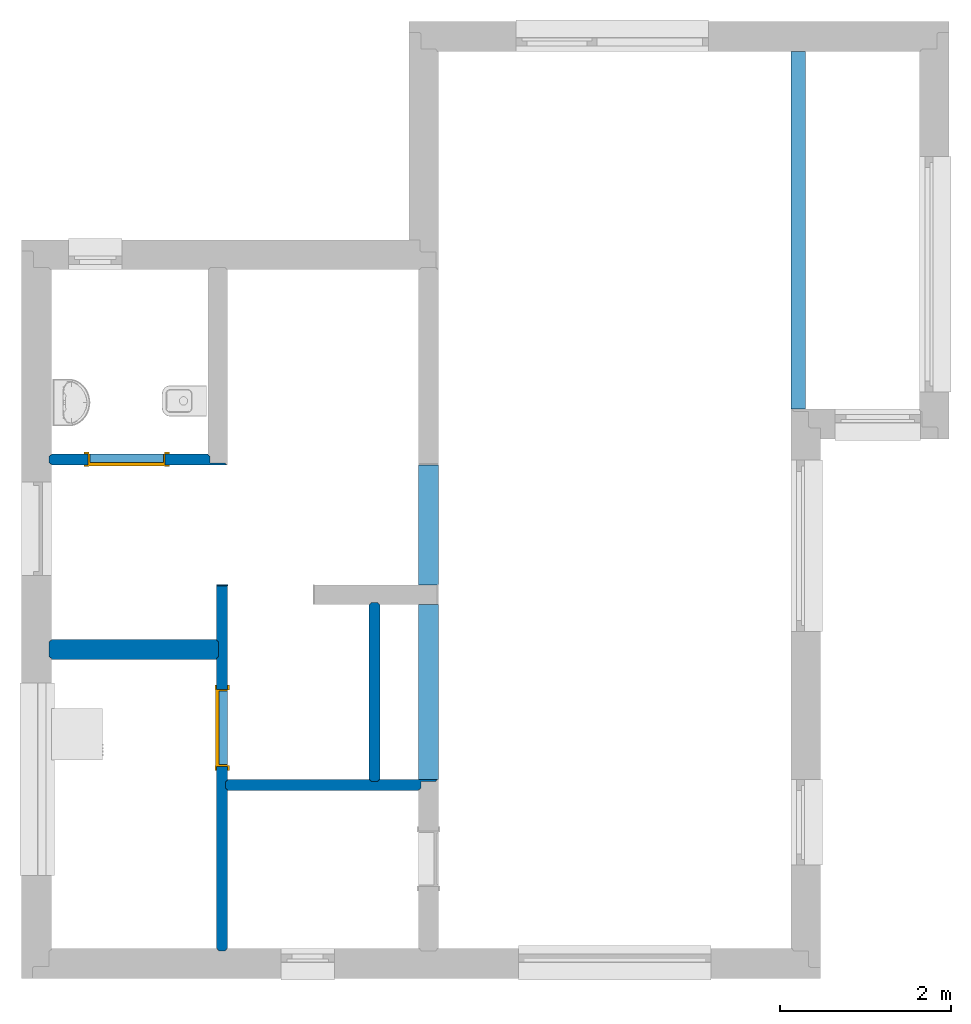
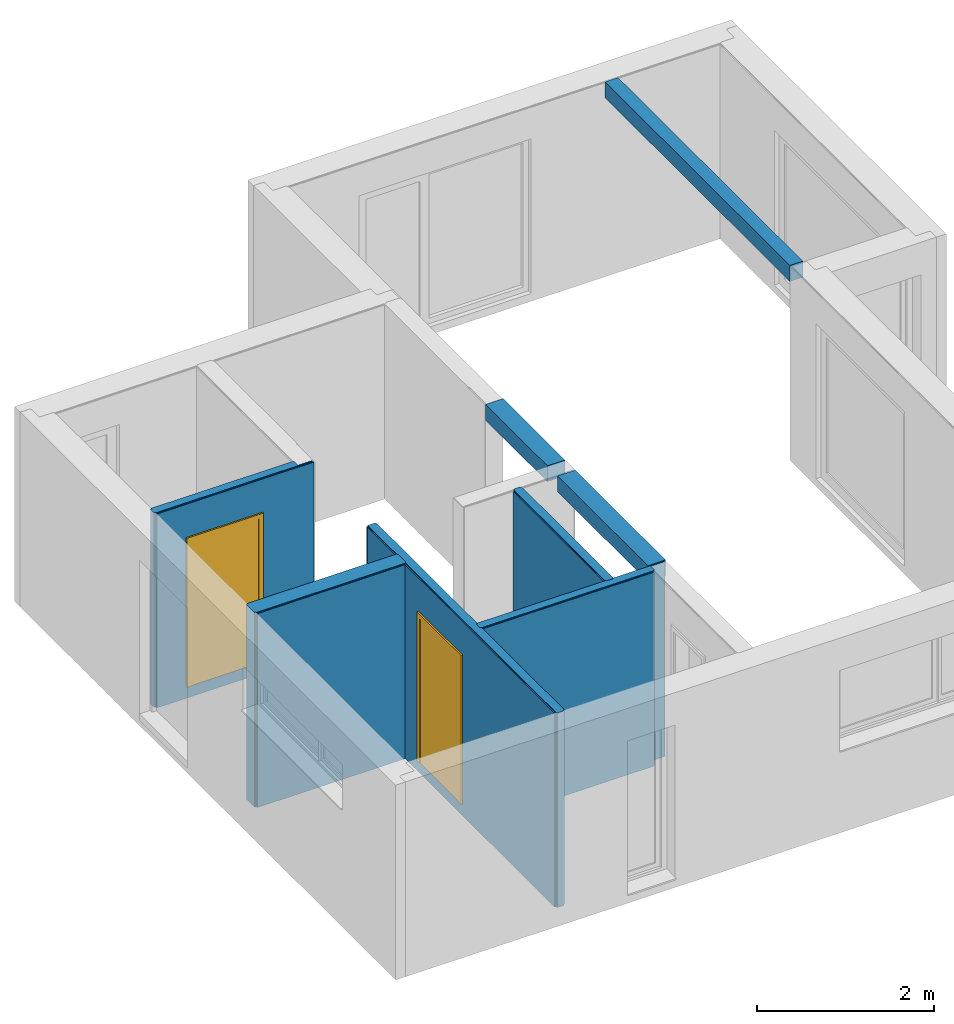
# One storey, part 1 of 6: 6 walls, 3 beams, 2 doors, 3 openings.
"""IFC2X3 building model written with IfcOpenShell, lengths in millimetres."""

import ifcopenshell
import ifcopenshell.guid

model = None  # the IFC model being written
_history = None  # IfcOwnerHistory: only IFC2X3 demands one
_inside = {}  # id of a spatial element -> (the spatial element, [elements in it])
_under = {}  # id of a project, library or spatial element -> (it, [spatial elements below it])
_declared = {}  # id of a project -> (the project, [libraries it declares])
_typed = {}  # id of a type object -> (the type object, [elements of that type])
_made_of = {}  # id of a material, layer set ... -> (it, [elements and type objects made of it])


def new_model(schema):
    """Start an empty IFC model of exactly this schema.

    Asked for "IFC4X3", IfcOpenShell would pick the latest addendum, in which some entities
    have other attributes; the version numbers below select the first issue.
    IFC2X3 requires an IfcOwnerHistory on every rooted entity: one is made here for all.
    """
    global model, _history
    if schema == "IFC4X3":
        model = ifcopenshell.file(schema_version=(4, 3, 0, 0))
    else:
        model = ifcopenshell.file(schema=schema)
    _inside.clear()
    _under.clear()
    _declared.clear()
    _typed.clear()
    _made_of.clear()
    _history = None
    if model.schema == "IFC2X3":
        org = make("IfcOrganization", Name="unknown")
        user = make(
            "IfcPersonAndOrganization",
            ThePerson=make("IfcPerson", FamilyName="unknown"),
            TheOrganization=org,
        )
        app = make(
            "IfcApplication",
            ApplicationDeveloper=org,
            Version="unknown",
            ApplicationFullName="unknown",
            ApplicationIdentifier="unknown",
        )
        _history = make(
            "IfcOwnerHistory",
            OwningUser=user,
            OwningApplication=app,
            ChangeAction="ADDED",
            CreationDate=0,
        )
    return model


def make(cls, **values):
    """One entity of the class cls with the attributes given. An attribute that is None is left unset."""
    return model.create_entity(
        cls, **{name: value for name, value in values.items() if value is not None}
    )


def entity(cls, *values):
    """Any entity or typed value of the class cls, its attributes in the order of the schema. None: left unset."""
    e = model.create_entity(cls)
    for i, value in enumerate(values):
        if value is not None:
            e[i] = value
    return e


def rooted(cls, **values):
    """An entity with a GlobalId (a new one), such as an element, a storey or a relation."""
    return make(cls, GlobalId=ifcopenshell.guid.new(), OwnerHistory=_history, **values)


def si_unit(unit_type, name, prefix=None):
    """IfcSIUnit, for example si_unit("LENGTHUNIT", "METRE", prefix="MILLI")."""
    return make("IfcSIUnit", UnitType=unit_type, Prefix=prefix, Name=name)


def converted_unit(unit_type, name, factor, base, dimensions=None, offset=None):
    """IfcConversionBasedUnit, such as the inch: factor (a typed value) times the base unit."""
    return make(
        "IfcConversionBasedUnit"
        if offset is None
        else "IfcConversionBasedUnitWithOffset",
        ConversionOffset=offset,
        Dimensions=None
        if dimensions is None
        else entity("IfcDimensionalExponents", *dimensions),
        UnitType=unit_type,
        Name=name,
        ConversionFactor=make(
            "IfcMeasureWithUnit", ValueComponent=factor, UnitComponent=base
        ),
    )


def derived_unit(unit_type, elements):
    """IfcDerivedUnit: a product of units, each with its exponent."""
    return make(
        "IfcDerivedUnit",
        Elements=[
            make("IfcDerivedUnitElement", Unit=unit, Exponent=power)
            for unit, power in elements
        ],
        UnitType=unit_type,
    )


def money_unit(currency):
    """IfcMonetaryUnit."""
    return make("IfcMonetaryUnit", Currency=currency)


def assignment(units):
    """IfcUnitAssignment: the units of a project."""
    return None if units is None else make("IfcUnitAssignment", Units=units)


def point(xyz):
    """IfcCartesianPoint."""
    return None if xyz is None else make("IfcCartesianPoint", Coordinates=xyz)


def direction(xyz):
    """IfcDirection."""
    return None if xyz is None else make("IfcDirection", DirectionRatios=xyz)


def frame(location, z_axis=None, x_axis=None):
    """IfcAxis2Placement3D, a coordinate frame: its origin and axes. An axis left out is left unset."""
    return make(
        "IfcAxis2Placement3D",
        Location=point(location),
        Axis=direction(z_axis),
        RefDirection=direction(x_axis),
    )


def origin_with_axes():
    """The frame at (0, 0, 0) with the z axis (0, 0, 1) and the x axis (1, 0, 0) written out."""
    return frame((0.0, 0.0, 0.0), z_axis=(0.0, 0.0, 1.0), x_axis=(1.0, 0.0, 0.0))


def place(relative_to, where):
    """IfcLocalPlacement: puts the frame where relative to a parent placement (None: the world)."""
    return make(
        "IfcLocalPlacement", PlacementRelTo=relative_to, RelativePlacement=where
    )


def context(
    kind, dimensions, precision=None, world=None, true_north=None, identifier=None
):
    """IfcGeometricRepresentationContext, for example the 3D "Model" context."""
    return make(
        "IfcGeometricRepresentationContext",
        ContextIdentifier=identifier,
        ContextType=kind,
        CoordinateSpaceDimension=dimensions,
        Precision=precision,
        WorldCoordinateSystem=world,
        TrueNorth=true_north,
    )


def subcontext(parent, identifier, kind, view, scale=None):
    """IfcGeometricRepresentationSubContext, for example "Body" below "Model"."""
    return make(
        "IfcGeometricRepresentationSubContext",
        ContextIdentifier=identifier,
        ContextType=kind,
        ParentContext=parent,
        TargetScale=scale,
        TargetView=view,
    )


def project(units=None, contexts=None):
    """IfcProject with its units and contexts."""
    return rooted(
        "IfcProject",
        Name="project",
        RepresentationContexts=contexts,
        UnitsInContext=assignment(units),
    )


def spatial(cls, under=None, at=None, **own):
    """A site, building, storey or space (cls), placed at a placement, below another one or the project."""
    s = rooted(cls, ObjectPlacement=at, **own)
    if under is not None:
        _under.setdefault(under.id(), (under, []))[1].append(s)
    return s


def faces_of(points, faces, orient=None, outer=None):
    """IfcFace entities. A face is a list of loops; a loop is a list of indices into points, from 0.

    orient and outer hold one flag for each loop. By default every Orientation is true, the
    first loop of a face is its IfcFaceOuterBound and the others are IfcFaceBound.
    """
    made = []
    for i, loops in enumerate(faces):
        bounds = []
        for j, loop in enumerate(loops):
            is_outer = j == 0 if outer is None else outer[i][j]
            bounds.append(
                make(
                    "IfcFaceOuterBound" if is_outer else "IfcFaceBound",
                    Bound=make("IfcPolyLoop", Polygon=[points[k] for k in loop]),
                    Orientation=True if orient is None else orient[i][j],
                )
            )
        made.append(make("IfcFace", Bounds=bounds))
    return made


def faceted_brep(points, faces, orient=None, outer=None, voids=None):
    """IfcFacetedBrep: a solid bounded by flat faces; with voids (closed shells), ...WithVoids."""
    shared = [point(p) for p in points]
    hull = make("IfcClosedShell", CfsFaces=faces_of(shared, faces, orient, outer))
    if voids is None:
        return make("IfcFacetedBrep", Outer=hull)
    return make(
        "IfcFacetedBrepWithVoids",
        Outer=hull,
        Voids=[
            make(cls, CfsFaces=faces_of(shared, fs, o, b)) for cls, fs, o, b in voids
        ],
    )


def shape(context_of_items, identifier, shape_type, items):
    """IfcShapeRepresentation: the items that make up one representation, for example the "Body"."""
    return make(
        "IfcShapeRepresentation",
        ContextOfItems=context_of_items,
        RepresentationIdentifier=identifier,
        RepresentationType=shape_type,
        Items=items,
    )


def source(mapping_origin, context_of_items, identifier, shape_type, items):
    """IfcRepresentationMap: a shape defined once, which mapped items show again and again."""
    return make(
        "IfcRepresentationMap",
        MappingOrigin=mapping_origin,
        MappedRepresentation=shape(context_of_items, identifier, shape_type, items),
    )


def transform(
    local_origin,
    x_axis=None,
    y_axis=None,
    z_axis=None,
    scale=None,
    scale2=None,
    scale3=None,
    uniform=True,
):
    """IfcCartesianTransformationOperator3D, or its non-uniform kind. x_axis, y_axis, z_axis: its Axis1, 2, 3."""
    if uniform:
        return make(
            "IfcCartesianTransformationOperator3D",
            Axis1=direction(x_axis),
            Axis2=direction(y_axis),
            LocalOrigin=point(local_origin),
            Scale=scale,
            Axis3=direction(z_axis),
        )
    return make(
        "IfcCartesianTransformationOperator3DnonUniform",
        Axis1=direction(x_axis),
        Axis2=direction(y_axis),
        LocalOrigin=point(local_origin),
        Scale=scale,
        Axis3=direction(z_axis),
        Scale2=scale2,
        Scale3=scale3,
    )


def mapped(mapping_source, mapping_target):
    """IfcMappedItem: shows the shape of a source again, moved by a transform."""
    return make(
        "IfcMappedItem", MappingSource=mapping_source, MappingTarget=mapping_target
    )


def material(Name=None, Category=None):
    """IfcMaterial."""
    return make("IfcMaterial", Name=Name, Category=Category)


def material_list(materials):
    """IfcMaterialList."""
    return make("IfcMaterialList", Materials=materials)


def made_of(thing, what):
    """Note that an element or type object is made of a material, layer set ...; save() writes the relation."""
    if what is not None:
        _made_of.setdefault(what.id(), (what, []))[1].append(thing)
    return thing


def type_object(cls, material=None, **own):
    """A type object (cls), such as IfcWallType, which elements share."""
    return made_of(rooted(cls, **own), material)


def element(
    cls,
    number,
    at=None,
    inside=None,
    cuts=None,
    type_object=None,
    material=None,
    context=None,
    identifier="Body",
    shape_type=None,
    held_by="IfcProductDefinitionShape",
    body=None,
    shapes=None,
    **own,
):
    """One element of the class cls, such as IfcWall. Its Tag is "e" and its number.

    at: its placement. inside: the storey or other place that contains it. cuts: it is an
    opening in that element (IfcRelVoidsElement). A single representation is given by context,
    identifier, shape_type and body (its items); several are given by shapes. held_by: the class
    of the entity that holds the representations. save() writes the other relations.
    """
    e = rooted(cls, Tag="e%d" % number, ObjectPlacement=at, **own)
    if body is not None:
        shapes = [shape(context, identifier, shape_type, body)]
    if shapes is not None:
        e.Representation = make(held_by, Representations=shapes)
    if inside is not None:
        _inside.setdefault(inside.id(), (inside, []))[1].append(e)
    if cuts is not None:
        rooted(
            "IfcRelVoidsElement", RelatingBuildingElement=cuts, RelatedOpeningElement=e
        )
    if type_object is not None:
        _typed.setdefault(type_object.id(), (type_object, []))[1].append(e)
    return made_of(e, material)


def fill(opening, filler):
    """IfcRelFillsElement: the door or window that sits in an opening."""
    return rooted(
        "IfcRelFillsElement",
        RelatingOpeningElement=opening,
        RelatedBuildingElement=filler,
    )


def aggregate(whole, parts):
    """IfcRelAggregates: a whole, such as a stair, and the parts it consists of."""
    return rooted("IfcRelAggregates", RelatingObject=whole, RelatedObjects=parts)


def save(model, path):
    """Write the relations noted so far, then the file.

    IfcRelAggregates (storeys below a building ...), IfcRelContainedInSpatialStructure (elements
    in a storey), IfcRelDefinesByType, IfcRelAssociatesMaterial and IfcRelDeclares: one each for
    every whole, place, type object, material and project.
    """
    for whole, parts in _under.values():
        aggregate(whole, parts)
    for where, things in _inside.values():
        rooted(
            "IfcRelContainedInSpatialStructure",
            RelatedElements=things,
            RelatingStructure=where,
        )
    for kind, things in _typed.values():
        rooted("IfcRelDefinesByType", RelatedObjects=things, RelatingType=kind)
    for what, things in _made_of.values():
        rooted("IfcRelAssociatesMaterial", RelatedObjects=things, RelatingMaterial=what)
    for by, libraries in _declared.values():
        rooted("IfcRelDeclares", RelatingContext=by, RelatedDefinitions=libraries)
    model.write(path)


model = new_model("IFC2X3")

# Units and contexts
model_context = context("Model", 3, precision=0.01, world=origin_with_axes(), true_north=direction((0.0, 1.0)))
body_context = subcontext(model_context, "Body", "Model", "MODEL_VIEW")
ifc_project = project(units=[si_unit("LENGTHUNIT", "METRE", prefix="MILLI"), si_unit("AREAUNIT", "SQUARE_METRE"), si_unit("VOLUMEUNIT", "CUBIC_METRE"), converted_unit("PLANEANGLEUNIT", "DEGREE", entity("IfcPlaneAngleMeasure", 0.0174532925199), si_unit("PLANEANGLEUNIT", "RADIAN"), dimensions=[0, 0, 0, 0, 0, 0, 0]), si_unit("SOLIDANGLEUNIT", "STERADIAN"), money_unit("USD"), converted_unit("TIMEUNIT", "Year", entity("IfcTimeMeasure", 31556926.0), si_unit("TIMEUNIT", "SECOND"), dimensions=[0, 0, 1, 0, 0, 0, 0]), si_unit("MASSUNIT", "GRAM", prefix="KILO"), si_unit("THERMODYNAMICTEMPERATUREUNIT", "DEGREE_CELSIUS"), si_unit("LUMINOUSINTENSITYUNIT", "LUMEN"), si_unit("ENERGYUNIT", "JOULE", prefix="MEGA"), derived_unit("THERMALCONDUCTANCEUNIT", [(si_unit("POWERUNIT", "WATT"), 1), (si_unit("LENGTHUNIT", "METRE"), -1), (si_unit("THERMODYNAMICTEMPERATUREUNIT", "KELVIN"), -1)]), derived_unit("SPECIFICHEATCAPACITYUNIT", [(si_unit("ENERGYUNIT", "JOULE"), 1), (si_unit("MASSUNIT", "GRAM", prefix="KILO"), -1), (si_unit("THERMODYNAMICTEMPERATUREUNIT", "KELVIN"), -1)]), derived_unit("MASSDENSITYUNIT", [(si_unit("MASSUNIT", "GRAM", prefix="KILO"), 1), (si_unit("VOLUMEUNIT", "CUBIC_METRE"), -1)])], contexts=[model_context])

# Site, building, storey
site_placement = place(None, origin_with_axes())
site = spatial("IfcSite", under=ifc_project, at=site_placement, Name="Lokalizacja", CompositionType="ELEMENT")
building_placement = place(site_placement, origin_with_axes())
building = spatial("IfcBuilding", under=site, at=building_placement, Name="Budynek", CompositionType="ELEMENT")
storey_placement = place(building_placement, origin_with_axes())
storey = spatial("IfcBuildingStorey", under=building, at=storey_placement, Name="EG", CompositionType="ELEMENT", Elevation=0.0)

# Beams
ifc_material_1 = material(Name="_DANWOOD_EL_KONSTR")
beam_type_1 = type_object("IfcBeamType", Name="_DANWOOD_EL_KONSTR 230 x 220", PredefinedType="NOTDEFINED")
beam_1_placement = place(storey_placement, frame((4405.0, -3910.13695991, 2530.0), z_axis=(0.0, 0.0, 1.0), x_axis=(-1.0, 0.0, 0.0)))
element("IfcBeam", 1, at=beam_1_placement, inside=storey, type_object=beam_type_1, material=ifc_material_1, Name="UNTERZUG", context=body_context, shape_type="Brep", body=[
    faceted_brep([(115.0, 0.0, -220.0), (-115.0, 0.0, -220.0), (-115.0, 2044.86290677, -220.0), (115.0, 2044.86290677, -220.0), (115.0, 0.0, 0.0), (-115.0, 0.0, 0.0), (-115.0, 2044.86290677, 0.0), (115.0, 2044.86290677, 0.0)], [[[0, 1, 2, 3]], [[4, 5, 1, 0]], [[1, 5, 6, 2]], [[7, 3, 2, 6]], [[4, 0, 3, 7]], [[5, 4, 7, 6]]]),
])
beam_2_placement = place(storey_placement, frame((4405.0, -2280.14170672, 2530.0), z_axis=(0.0, 0.0, 1.0), x_axis=(-1.0, 0.0, 0.0)))
element("IfcBeam", 2, at=beam_2_placement, inside=storey, type_object=beam_type_1, material=ifc_material_1, Name="UNTERZUG", context=body_context, shape_type="Brep", body=[
    faceted_brep([(115.0, 0.0, -220.0), (-115.0, 0.0, -220.0), (-115.0, 1399.99525319, -220.0), (115.0, 1399.99525319, -220.0), (115.0, 0.0, 0.0), (-115.0, 0.0, 0.0), (-115.0, 1399.99525319, 0.0), (115.0, 1399.99525319, 0.0)], [[[0, 1, 2, 3]], [[4, 5, 1, 0]], [[1, 5, 6, 2]], [[7, 3, 2, 6]], [[4, 0, 3, 7]], [[5, 4, 7, 6]]]),
])
beam_type_2 = type_object("IfcBeamType", Name="_DANWOOD_EL_KONSTR 170 x 220", PredefinedType="NOTDEFINED")
beam_3_placement = place(storey_placement, frame((8725.0, 2550.0, 2530.0), z_axis=(0.0, 0.0, 1.0), x_axis=(-1.0, 0.0, 0.0)))
element("IfcBeam", 3, at=beam_3_placement, inside=storey, type_object=beam_type_2, material=ifc_material_1, Name="UNTERZUG", context=body_context, shape_type="Brep", body=[
    faceted_brep([(85.0, 0.0, -220.0), (-85.0, 0.0, -220.0), (-85.0, 4180.0, -220.0), (85.0, 4180.0, -220.0), (85.0, 0.0, 0.0), (-85.0, 0.0, 0.0), (-85.0, 4180.0, 0.0), (85.0, 4180.0, 0.0)], [[[0, 1, 2, 3]], [[4, 5, 1, 0]], [[1, 5, 6, 2]], [[7, 3, 2, 6]], [[4, 0, 3, 7]], [[5, 4, 7, 6]]]),
])

# Walls, openings, door
ifc_material_2 = material(Name="Płyta GK")
ifc_material_3 = material(Name="Płyta OSB")
ifc_material_4 = material(Name="Drewno konstrukcyjne")
ifc_material_list = material_list([ifc_material_2, ifc_material_3, ifc_material_4, ifc_material_3, ifc_material_2])
wall_type_1 = type_object("IfcWallType", Name="022- _dan_SD_130 130", PredefinedType="NOTDEFINED")
wall_1_placement = place(storey_placement, frame((2060.0, -3680.13695991, -160.0), z_axis=(0.0, 0.0, 1.0), x_axis=(0.0, -1.0, 0.0)))
wall_1 = element("IfcWall", 4, at=wall_1_placement, inside=storey, type_object=wall_type_1, material=ifc_material_list, Name="SW1", context=body_context, shape_type="Brep", body=[
    faceted_brep([(2391.86290677, -13.0, 2678.0), (2391.86290677, 0.0, 2678.0), (2391.86290677, 0.0, 0.0), (2391.86290677, -13.0, 0.0), (4249.86294496, 0.0, 2678.0), (4249.86294496, -13.0, 2678.0), (4249.86294496, 0.0, 0.0), (4249.86294496, -13.0, 0.0)], [[[0, 1, 2, 3]], [[4, 1, 0, 5]], [[1, 4, 6, 2]], [[6, 7, 3, 2]], [[5, 0, 3, 7]], [[4, 5, 7, 6]]]),
    faceted_brep([(0.0, -13.0, 2678.0), (0.0, 0.0, 2678.0), (0.0, 0.0, 0.0), (0.0, -13.0, 0.0), (2287.86290677, 0.0, 2678.0), (2287.86290677, -13.0, 2678.0), (2287.86290677, 0.0, 0.0), (2287.86290677, -13.0, 0.0)], [[[0, 1, 2, 3]], [[4, 1, 0, 5]], [[1, 4, 6, 2]], [[6, 7, 3, 2]], [[5, 0, 3, 7]], [[4, 5, 7, 6]]]),
    faceted_brep([(4262.86294496, -25.0, 0.0), (2379.86290677, -25.0, 0.0), (2379.86290677, -13.0, 0.0), (4262.86294496, -13.0, 0.0), (4262.86294496, -25.0, 2690.0), (2379.86290677, -25.0, 2690.0), (2379.86290677, -13.0, 2690.0), (4262.86294496, -13.0, 2690.0)], [[[0, 1, 2, 3]], [[4, 5, 1, 0]], [[2, 1, 5, 6]], [[3, 2, 6, 7]], [[3, 7, 4, 0]], [[7, 6, 5, 4]]]),
    faceted_brep([(2299.86290677, -25.0, 0.0), (0.0, -25.0, 0.0), (0.0, -13.0, 0.0), (2299.86290677, -13.0, 0.0), (2299.86290677, -25.0, 2690.0), (0.0, -25.0, 2690.0), (0.0, -13.0, 2690.0), (2299.86290677, -13.0, 2690.0)], [[[0, 1, 2, 3]], [[4, 5, 1, 0]], [[2, 1, 5, 6]], [[3, 2, 6, 7]], [[3, 7, 4, 0]], [[7, 6, 5, 4]]]),
    faceted_brep([(4274.86294496, -105.0, 0.0), (0.0, -105.0, 0.0), (0.0, -25.0, 0.0), (4274.86294496, -25.0, 0.0), (4274.86294496, -105.0, 2690.0), (0.0, -105.0, 2690.0), (0.0, -25.0, 2690.0), (4274.86294496, -25.0, 2690.0)], [[[0, 1, 2, 3]], [[4, 5, 1, 0]], [[2, 1, 5, 6]], [[3, 2, 6, 7]], [[3, 7, 4, 0]], [[7, 6, 5, 4]]]),
    faceted_brep([(4262.86294496, -117.0, 0.0), (845.0, -117.0, 0.0), (845.0, -105.0, 0.0), (4262.86294496, -105.0, 0.0), (4262.86294496, -117.0, 2690.0), (845.0, -117.0, 2690.0), (845.0, -105.0, 2690.0), (4262.86294496, -105.0, 2690.0)], [[[0, 1, 2, 3]], [[4, 5, 1, 0]], [[2, 1, 5, 6]], [[3, 2, 6, 7]], [[3, 7, 4, 0]], [[7, 6, 5, 4]]]),
    faceted_brep([(665.0, -117.0, 0.0), (0.0, -117.0, 0.0), (0.0, -105.0, 0.0), (665.0, -105.0, 0.0), (665.0, -117.0, 2690.0), (0.0, -117.0, 2690.0), (0.0, -105.0, 2690.0), (665.0, -105.0, 2690.0)], [[[0, 1, 2, 3]], [[4, 5, 1, 0]], [[2, 1, 5, 6]], [[3, 2, 6, 7]], [[3, 7, 4, 0]], [[7, 6, 5, 4]]]),
    faceted_brep([(857.0, -130.0, 2678.0), (857.0, -117.0, 2678.0), (857.0, -117.0, 0.0), (857.0, -130.0, 0.0), (4249.86294496, -117.0, 2678.0), (4249.86294496, -130.0, 2678.0), (4249.86294496, -117.0, 0.0), (4249.86294496, -130.0, 0.0)], [[[0, 1, 2, 3]], [[4, 1, 0, 5]], [[1, 4, 6, 2]], [[6, 7, 3, 2]], [[5, 0, 3, 7]], [[4, 5, 7, 6]]]),
    faceted_brep([(0.0, -130.0, 2678.0), (0.0, -117.0, 2678.0), (0.0, -117.0, 0.0), (0.0, -130.0, 0.0), (653.0, -117.0, 2678.0), (653.0, -130.0, 2678.0), (653.0, -117.0, 0.0), (653.0, -130.0, 0.0)], [[[0, 1, 2, 3]], [[4, 1, 0, 5]], [[1, 4, 6, 2]], [[6, 7, 3, 2]], [[5, 0, 3, 7]], [[4, 5, 7, 6]]]),
])
opening_1_placement = place(wall_1_placement, origin_with_axes())
opening_1 = element("IfcOpeningElement", 5, at=opening_1_placement, cuts=wall_1, Name="ZS5", context=body_context, shape_type="Brep", body=[
    faceted_brep([(13.0, -117.0, 0.0), (0.0, -117.0, 0.0), (0.0, -117.0, 2678.0), (13.0, -117.0, 2678.0), (13.0, -130.0, 0.0), (0.0, -130.0, 0.0), (0.0, -130.0, 2678.0), (13.0, -130.0, 2678.0)], [[[0, 1, 2, 3]], [[0, 4, 5, 1]], [[1, 5, 6, 2]], [[3, 2, 6, 7]], [[4, 0, 3, 7]], [[5, 4, 7, 6]]]),
    faceted_brep([(13.0, 0.0, 0.0), (0.0, 0.0, 0.0), (0.0, 0.0, 2678.0), (13.0, 0.0, 2678.0), (13.0, -13.0, 0.0), (0.0, -13.0, 0.0), (0.0, -13.0, 2678.0), (13.0, -13.0, 2678.0)], [[[0, 1, 2, 3]], [[0, 4, 5, 1]], [[1, 5, 6, 2]], [[3, 2, 6, 7]], [[4, 0, 3, 7]], [[5, 4, 7, 6]]]),
    faceted_brep([(13.0, -13.0, 0.0), (0.0, -13.0, 0.0), (0.0, -13.0, 2678.0), (13.0, -13.0, 2678.0), (13.0, -117.0, 0.0), (0.0, -117.0, 0.0), (0.0, -117.0, 2678.0), (13.0, -117.0, 2678.0)], [[[0, 1, 2, 3]], [[0, 4, 5, 1]], [[1, 5, 6, 2]], [[3, 2, 6, 7]], [[4, 0, 3, 7]], [[5, 4, 7, 6]]]),
])
opening_2_placement = place(wall_1_placement, frame((1669.86289202, 0.0, 160.0), z_axis=(0.0, 0.0, 1.0), x_axis=(1.0, 0.0, 0.0)))
opening_2 = element("IfcOpeningElement", 6, at=opening_2_placement, cuts=wall_1, Name="D4", context=body_context, shape_type="Brep", body=[
    faceted_brep([(-450.0, -130.0, 0.0), (-450.0, -130.0, 2010.0), (-450.0, 260.0, 2010.0), (-450.0, 260.0, 0.0), (450.0, -130.0, 0.0), (450.0, -130.0, 2010.0), (450.0, 260.0, 2010.0), (450.0, 260.0, 0.0)], [[[0, 1, 2, 3]], [[0, 4, 5, 1]], [[1, 5, 6, 2]], [[3, 2, 6, 7]], [[4, 0, 3, 7]], [[5, 4, 7, 6]]]),
    faceted_brep([(-500.0, -260.0, 0.0), (-500.0, -260.0, 2060.0), (-500.0, -130.0, 2060.0), (-500.0, -130.0, 0.0), (500.0, -260.0, 0.0), (500.0, -260.0, 2060.0), (500.0, -130.0, 2060.0), (500.0, -130.0, 0.0)], [[[0, 1, 2, 3]], [[0, 4, 5, 1]], [[1, 5, 6, 2]], [[3, 2, 6, 7]], [[4, 0, 3, 7]], [[5, 4, 7, 6]]]),
    faceted_brep([(-500.0, 130.0, 2060.0), (-500.0, 130.0, 0.0), (-500.0, 0.0, 0.0), (-500.0, 0.0, 2060.0), (500.0, 130.0, 2060.0), (500.0, 130.0, 0.0), (500.0, 0.0, 0.0), (500.0, 0.0, 2060.0)], [[[0, 1, 2, 3]], [[0, 4, 5, 1]], [[1, 5, 6, 2]], [[3, 2, 6, 7]], [[4, 0, 3, 7]], [[5, 4, 7, 6]]]),
])
wall_type_2 = type_object("IfcWallType", Name="Zakończenie zamknięte 24", PredefinedType="NOTDEFINED")
wall_2_placement = place(opening_1_placement, frame((6.5, 0.0, 0.0), z_axis=(0.0, 0.0, 1.0), x_axis=(-1.0, 0.0, 0.0)))
wall_2 = element("IfcWall", 7, at=wall_2_placement, inside=storey, type_object=wall_type_2, material=ifc_material_2, Name="ZS5", context=body_context, shape_type="Brep", body=[
    faceted_brep([(6.5, 130.0, 0.0), (-6.5, 130.0, 0.0), (-6.5, 130.0, 2678.0), (6.5, 130.0, 2678.0), (6.5, 117.0, 0.0), (-6.5, 117.0, 0.0), (-6.5, 117.0, 2678.0), (6.5, 117.0, 2678.0)], [[[0, 1, 2, 3]], [[4, 5, 1, 0]], [[5, 6, 2, 1]], [[6, 7, 3, 2]], [[7, 4, 0, 3]], [[4, 7, 6, 5]]]),
    faceted_brep([(6.5, 13.0, 0.0), (-6.5, 13.0, 0.0), (-6.5, 13.0, 2678.0), (6.5, 13.0, 2678.0), (6.5, 0.0, 0.0), (-6.5, 0.0, 0.0), (-6.5, 0.0, 2678.0), (6.5, 0.0, 2678.0)], [[[0, 1, 2, 3]], [[4, 5, 1, 0]], [[5, 6, 2, 1]], [[6, 7, 3, 2]], [[7, 4, 0, 3]], [[4, 7, 6, 5]]]),
    faceted_brep([(6.5, 117.0, 0.0), (-6.5, 117.0, 0.0), (-6.5, 117.0, 2678.0), (6.5, 117.0, 2678.0), (6.5, 13.0, 0.0), (-6.5, 13.0, 0.0), (-6.5, 13.0, 2678.0), (6.5, 13.0, 2678.0)], [[[0, 1, 2, 3]], [[4, 5, 1, 0]], [[5, 6, 2, 1]], [[6, 7, 3, 2]], [[7, 4, 0, 3]], [[4, 7, 6, 5]]]),
])
fill(opening_1, wall_2)
door_style = type_object("IfcDoorStyle", Name="Drzwi 24", ConstructionType="NOTDEFINED", OperationType="SINGLE_SWING_RIGHT", ParameterTakesPrecedence=False, Sizeable=False)
shared_shape = source(origin_with_axes(), body_context, "Body", "Brep", [
    faceted_brep([(-500.0, 10.0, 0.0), (-440.0, 10.0, 0.0), (-440.0, -10.0, 0.0), (-500.0, -10.0, 0.0), (-500.0, 10.0, 2060.0), (-440.0, 10.0, 2000.0), (-440.0, -10.0, 2000.0), (-500.0, -10.0, 2060.0)], [[[0, 1, 2, 3]], [[0, 4, 5, 1]], [[1, 5, 6, 2]], [[3, 2, 6, 7]], [[4, 0, 3, 7]], [[5, 4, 7, 6]]]),
    faceted_brep([(500.0, 10.0, 2060.0), (440.0, 10.0, 2000.0), (440.0, -10.0, 2000.0), (500.0, -10.0, 2060.0), (500.0, 10.0, 0.0), (440.0, 10.0, 0.0), (440.0, -10.0, 0.0), (500.0, -10.0, 0.0)], [[[0, 1, 2, 3]], [[0, 4, 5, 1]], [[1, 5, 6, 2]], [[3, 2, 6, 7]], [[4, 0, 3, 7]], [[5, 4, 7, 6]]]),
    faceted_brep([(-500.0, 10.0, 2060.0), (-440.0, 10.0, 2000.0), (-440.0, -10.0, 2000.0), (-500.0, -10.0, 2060.0), (500.0, 10.0, 2060.0), (440.0, 10.0, 2000.0), (440.0, -10.0, 2000.0), (500.0, -10.0, 2060.0)], [[[0, 1, 2, 3]], [[0, 4, 5, 1]], [[1, 5, 6, 2]], [[3, 2, 6, 7]], [[4, 0, 3, 7]], [[5, 4, 7, 6]]]),
    faceted_brep([(-500.0, -160.0, 0.0), (-500.0, -140.0, 0.0), (-440.0, -140.0, 0.0), (-440.0, -160.0, 0.0), (-500.0, -160.0, 2060.0), (-500.0, -140.0, 2060.0), (-440.0, -140.0, 2000.0), (-440.0, -160.0, 2000.0)], [[[0, 1, 2, 3]], [[4, 5, 1, 0]], [[1, 5, 6, 2]], [[3, 2, 6, 7]], [[0, 3, 7, 4]], [[7, 6, 5, 4]]]),
    faceted_brep([(500.0, -160.0, 2060.0), (500.0, -140.0, 2060.0), (440.0, -140.0, 2000.0), (440.0, -160.0, 2000.0), (500.0, -160.0, 0.0), (500.0, -140.0, 0.0), (440.0, -140.0, 0.0), (440.0, -160.0, 0.0)], [[[0, 1, 2, 3]], [[4, 5, 1, 0]], [[1, 5, 6, 2]], [[3, 2, 6, 7]], [[0, 3, 7, 4]], [[7, 6, 5, 4]]]),
    faceted_brep([(-500.0, -160.0, 2060.0), (-500.0, -140.0, 2060.0), (-440.0, -140.0, 2000.0), (-440.0, -160.0, 2000.0), (500.0, -160.0, 2060.0), (500.0, -140.0, 2060.0), (440.0, -140.0, 2000.0), (440.0, -160.0, 2000.0)], [[[0, 1, 2, 3]], [[4, 5, 1, 0]], [[1, 5, 6, 2]], [[3, 2, 6, 7]], [[0, 3, 7, 4]], [[7, 6, 5, 4]]]),
    faceted_brep([(-450.0, 0.0, 0.0), (-430.0, 0.0, 0.0), (-430.0, -140.0, 0.0), (-450.0, -140.0, 0.0), (-450.0, 0.0, 1990.0), (-430.0, 0.0, 1990.0), (-430.0, -140.0, 1990.0), (-450.0, -140.0, 1990.0)], [[[0, 1, 2, 3]], [[0, 4, 5, 1]], [[1, 5, 6, 2]], [[3, 2, 6, 7]], [[4, 0, 3, 7]], [[5, 4, 7, 6]]]),
    faceted_brep([(450.0, 0.0, 0.0), (450.0, 0.0, 1990.0), (450.0, -140.0, 1990.0), (450.0, -140.0, 0.0), (430.0, 0.0, 0.0), (430.0, 0.0, 1990.0), (430.0, -140.0, 1990.0), (430.0, -140.0, 0.0)], [[[0, 1, 2, 3]], [[0, 4, 5, 1]], [[1, 5, 6, 2]], [[3, 2, 6, 7]], [[4, 0, 3, 7]], [[5, 4, 7, 6]]]),
    faceted_brep([(-450.0, 0.0, 2010.0), (-450.0, 0.0, 1990.0), (-450.0, -140.0, 1990.0), (-450.0, -140.0, 2010.0), (450.0, 0.0, 2010.0), (450.0, 0.0, 1990.0), (430.0, 0.0, 1990.0), (-430.0, 0.0, 1990.0), (-430.0, -140.0, 1990.0), (430.0, -140.0, 1990.0), (450.0, -140.0, 1990.0), (450.0, -140.0, 2010.0)], [[[0, 1, 2, 3]], [[0, 4, 5, 6, 7, 1]], [[1, 7, 8, 2]], [[3, 2, 8, 9, 10, 11]], [[4, 0, 3, 11]], [[5, 4, 11, 10]], [[6, 5, 10, 9]], [[7, 6, 9, 8]]]),
    faceted_brep([(430.0, 0.0, 0.0), (430.0, -40.0, 0.0), (-430.0, -40.0, 0.0), (-430.0, 0.0, 0.0), (430.0, 0.0, 1990.0), (430.0, -40.0, 1990.0), (-430.0, -40.0, 1990.0), (-430.0, 0.0, 1990.0)], [[[0, 1, 2, 3]], [[4, 5, 1, 0]], [[1, 5, 6, 2]], [[3, 2, 6, 7]], [[0, 3, 7, 4]], [[7, 6, 5, 4]]]),
])
door_1_placement = place(opening_2_placement, frame((450.0, 0.0, 0.0), z_axis=(0.0, 0.0, 1.0), x_axis=(-1.0, 0.0, 0.0)))
door_1 = element("IfcDoor", 8, at=door_1_placement, inside=storey, type_object=door_style, Name="D4", OverallHeight=2010.0, OverallWidth=900.0, context=body_context, shape_type="MappedRepresentation", body=[
    mapped(shared_shape, transform((450.0, 140.0, 0.0))),
])
fill(opening_2, door_1)

# Wall, opening, door
wall_3_placement = place(storey_placement, frame((2060.0, -2150.14170672, -160.0), z_axis=(0.0, 0.0, 1.0), x_axis=(-1.0, 0.0, 0.0)))
wall_3 = element("IfcWall", 9, at=wall_3_placement, inside=storey, type_object=wall_type_1, material=ifc_material_list, Name="SW1", context=body_context, shape_type="Brep", body=[
    faceted_brep([(2060.0, 117.0, 2678.0), (13.0, 117.0, 2678.0), (13.0, 117.0, 0.0), (2060.0, 117.0, 0.0), (13.0, 130.0, 2678.0), (2060.0, 130.0, 2678.0), (13.0, 130.0, 0.0), (2060.0, 130.0, 0.0)], [[[0, 1, 2, 3]], [[4, 1, 0, 5]], [[1, 4, 6, 2]], [[7, 3, 2, 6]], [[5, 0, 3, 7]], [[4, 5, 7, 6]]]),
    faceted_brep([(2073.0, 117.0, 2690.0), (25.0, 117.0, 2690.0), (25.0, 105.0, 2690.0), (2073.0, 105.0, 2690.0), (2073.0, 117.0, 0.0), (25.0, 117.0, 0.0), (25.0, 105.0, 0.0), (2073.0, 105.0, 0.0)], [[[0, 1, 2, 3]], [[4, 5, 1, 0]], [[2, 1, 5, 6]], [[3, 2, 6, 7]], [[3, 7, 4, 0]], [[7, 6, 5, 4]]]),
    faceted_brep([(2085.0, 105.0, 2690.0), (205.0, 105.0, 2690.0), (205.0, 25.0, 2690.0), (2085.0, 25.0, 2690.0), (2085.0, 105.0, 0.0), (205.0, 105.0, 0.0), (205.0, 25.0, 0.0), (2085.0, 25.0, 0.0)], [[[0, 1, 2, 3]], [[4, 5, 1, 0]], [[2, 1, 5, 6]], [[3, 2, 6, 7]], [[3, 7, 4, 0]], [[7, 6, 5, 4]]]),
    faceted_brep([(2073.0, 25.0, 2690.0), (217.0, 25.0, 2690.0), (217.0, 13.0, 2690.0), (2073.0, 13.0, 2690.0), (2073.0, 25.0, 0.0), (217.0, 25.0, 0.0), (217.0, 13.0, 0.0), (2073.0, 13.0, 0.0)], [[[0, 1, 2, 3]], [[4, 5, 1, 0]], [[2, 1, 5, 6]], [[3, 2, 6, 7]], [[3, 7, 4, 0]], [[7, 6, 5, 4]]]),
    faceted_brep([(2060.0, 0.0, 2678.0), (230.0, 0.0, 2678.0), (230.0, 0.0, 0.0), (2060.0, 0.0, 0.0), (230.0, 13.0, 2678.0), (2060.0, 13.0, 2678.0), (230.0, 13.0, 0.0), (2060.0, 13.0, 0.0)], [[[0, 1, 2, 3]], [[4, 1, 0, 5]], [[1, 4, 6, 2]], [[7, 3, 2, 6]], [[5, 0, 3, 7]], [[4, 5, 7, 6]]]),
])
opening_3_placement = place(wall_3_placement, frame((1180.00003774, 0.0, 160.0), z_axis=(0.0, 0.0, 1.0), x_axis=(1.0, 0.0, 0.0)))
opening_3 = element("IfcOpeningElement", 10, at=opening_3_placement, cuts=wall_3, Name="D4", context=body_context, shape_type="Brep", body=[
    faceted_brep([(450.0, 130.0, 0.0), (450.0, 130.0, 2010.0), (450.0, -260.0, 2010.0), (450.0, -260.0, 0.0), (-450.0, 130.0, 0.0), (-450.0, 130.0, 2010.0), (-450.0, -260.0, 2010.0), (-450.0, -260.0, 0.0)], [[[0, 1, 2, 3]], [[0, 4, 5, 1]], [[1, 5, 6, 2]], [[3, 2, 6, 7]], [[4, 0, 3, 7]], [[5, 4, 7, 6]]]),
    faceted_brep([(500.0, 260.0, 0.0), (500.0, 260.0, 2060.0), (500.0, 130.0, 2060.0), (500.0, 130.0, 0.0), (-500.0, 260.0, 0.0), (-500.0, 260.0, 2060.0), (-500.0, 130.0, 2060.0), (-500.0, 130.0, 0.0)], [[[0, 1, 2, 3]], [[0, 4, 5, 1]], [[1, 5, 6, 2]], [[3, 2, 6, 7]], [[4, 0, 3, 7]], [[5, 4, 7, 6]]]),
    faceted_brep([(500.0, -130.0, 2060.0), (500.0, -130.0, 0.0), (500.0, 0.0, 0.0), (500.0, 0.0, 2060.0), (-500.0, -130.0, 2060.0), (-500.0, -130.0, 0.0), (-500.0, 0.0, 0.0), (-500.0, 0.0, 2060.0)], [[[0, 1, 2, 3]], [[0, 4, 5, 1]], [[1, 5, 6, 2]], [[3, 2, 6, 7]], [[4, 0, 3, 7]], [[5, 4, 7, 6]]]),
])
door_2_placement = place(opening_3_placement, frame((-450.0, 0.0, 0.0), z_axis=(0.0, 0.0, 1.0), x_axis=(1.0, 0.0, 0.0)))
door_2 = element("IfcDoor", 11, at=door_2_placement, inside=storey, type_object=door_style, Name="D4", OverallHeight=2010.0, OverallWidth=900.0, context=body_context, shape_type="MappedRepresentation", body=[
    mapped(shared_shape, transform((450.0, 140.0, 0.0))),
])
fill(opening_3, door_2)

# Walls
wall_4_placement = place(storey_placement, frame((3840.0000112, -3680.13695991, -160.0), z_axis=(0.0, 0.0, 1.0), x_axis=(0.0, -1.0, 0.0)))
element("IfcWall", 12, at=wall_4_placement, inside=storey, type_object=wall_type_1, material=ifc_material_list, Name="SW1", context=body_context, shape_type="Brep", body=[
    faceted_brep([(230.0, -13.0, 2678.0), (230.0, 0.0, 2678.0), (230.0, 0.0, 0.0), (230.0, -13.0, 0.0), (2274.86290677, 0.0, 2678.0), (2274.86290677, -13.0, 2678.0), (2274.86290677, 0.0, 0.0), (2274.86290677, -13.0, 0.0)], [[[0, 1, 2, 3]], [[4, 1, 0, 5]], [[1, 4, 6, 2]], [[6, 7, 3, 2]], [[5, 0, 3, 7]], [[4, 5, 7, 6]]]),
    faceted_brep([(2287.86290677, -25.0, 0.0), (217.0, -25.0, 0.0), (217.0, -13.0, 0.0), (2287.86290677, -13.0, 0.0), (2287.86290677, -25.0, 2690.0), (217.0, -25.0, 2690.0), (217.0, -13.0, 2690.0), (2287.86290677, -13.0, 2690.0)], [[[0, 1, 2, 3]], [[4, 5, 1, 0]], [[2, 1, 5, 6]], [[3, 2, 6, 7]], [[3, 7, 4, 0]], [[7, 6, 5, 4]]]),
    faceted_brep([(2299.86290677, -105.0, 0.0), (205.0, -105.0, 0.0), (205.0, -25.0, 0.0), (2299.86290677, -25.0, 0.0), (2299.86290677, -105.0, 2690.0), (205.0, -105.0, 2690.0), (205.0, -25.0, 2690.0), (2299.86290677, -25.0, 2690.0)], [[[0, 1, 2, 3]], [[4, 5, 1, 0]], [[2, 1, 5, 6]], [[3, 2, 6, 7]], [[3, 7, 4, 0]], [[7, 6, 5, 4]]]),
    faceted_brep([(2287.86290677, -117.0, 0.0), (217.0, -117.0, 0.0), (217.0, -105.0, 0.0), (2287.86290677, -105.0, 0.0), (2287.86290677, -117.0, 2690.0), (217.0, -117.0, 2690.0), (217.0, -105.0, 2690.0), (2287.86290677, -105.0, 2690.0)], [[[0, 1, 2, 3]], [[4, 5, 1, 0]], [[2, 1, 5, 6]], [[3, 2, 6, 7]], [[3, 7, 4, 0]], [[7, 6, 5, 4]]]),
    faceted_brep([(230.0, -130.0, 2678.0), (230.0, -117.0, 2678.0), (230.0, -117.0, 0.0), (230.0, -130.0, 0.0), (2274.86290677, -117.0, 2678.0), (2274.86290677, -130.0, 2678.0), (2274.86290677, -117.0, 0.0), (2274.86290677, -130.0, 0.0)], [[[0, 1, 2, 3]], [[4, 1, 0, 5]], [[1, 4, 6, 2]], [[6, 7, 3, 2]], [[5, 0, 3, 7]], [[4, 5, 7, 6]]]),
])
wall_5_placement = place(storey_placement, frame((4290.00004534, -6084.99986669, -160.0), z_axis=(0.0, 0.0, 1.0), x_axis=(-1.0, 0.0, 0.0)))
element("IfcWall", 13, at=wall_5_placement, inside=storey, type_object=wall_type_1, material=ifc_material_list, Name="SW1", context=body_context, shape_type="Brep", body=[
    faceted_brep([(2230.00004535, -13.0, 2678.0), (0.0, -13.0, 2678.0), (0.0, -13.0, 0.0), (2230.00004535, -13.0, 0.0), (0.0, 0.0, 2678.0), (2230.00004535, 0.0, 2678.0), (0.0, 0.0, 0.0), (2230.00004535, 0.0, 0.0)], [[[0, 1, 2, 3]], [[4, 1, 0, 5]], [[1, 4, 6, 2]], [[7, 3, 2, 6]], [[5, 0, 3, 7]], [[4, 5, 7, 6]]]),
    faceted_brep([(2243.00004535, -25.0, 0.0), (-13.0, -25.0, 0.0), (-13.0, -13.0, 0.0), (2243.00004535, -13.0, 0.0), (2243.00004535, -25.0, 2690.0), (-13.0, -25.0, 2690.0), (-13.0, -13.0, 2690.0), (2243.00004535, -13.0, 2690.0)], [[[0, 1, 2, 3]], [[4, 5, 1, 0]], [[2, 1, 5, 6]], [[3, 2, 6, 7]], [[3, 7, 4, 0]], [[7, 6, 5, 4]]]),
    faceted_brep([(2255.00004535, -105.0, 0.0), (-25.0, -105.0, 0.0), (-25.0, -25.0, 0.0), (2255.00004535, -25.0, 0.0), (2255.00004535, -105.0, 2690.0), (-25.0, -105.0, 2690.0), (-25.0, -25.0, 2690.0), (2255.00004535, -25.0, 2690.0)], [[[0, 1, 2, 3]], [[4, 5, 1, 0]], [[2, 1, 5, 6]], [[3, 2, 6, 7]], [[3, 7, 4, 0]], [[7, 6, 5, 4]]]),
    faceted_brep([(475.000034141, -117.0, 0.0), (-205.0, -117.0, 0.0), (-205.0, -105.0, 0.0), (475.000034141, -105.0, 0.0), (475.000034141, -117.0, 2690.0), (-205.0, -117.0, 2690.0), (-205.0, -105.0, 2690.0), (475.000034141, -105.0, 2690.0)], [[[0, 1, 2, 3]], [[4, 5, 1, 0]], [[2, 1, 5, 6]], [[3, 2, 6, 7]], [[3, 7, 4, 0]], [[7, 6, 5, 4]]]),
    faceted_brep([(2243.00004535, -117.0, 0.0), (555.000034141, -117.0, 0.0), (555.000034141, -105.0, 0.0), (2243.00004535, -105.0, 0.0), (2243.00004535, -117.0, 2690.0), (555.000034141, -117.0, 2690.0), (555.000034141, -105.0, 2690.0), (2243.00004535, -105.0, 2690.0)], [[[0, 1, 2, 3]], [[4, 5, 1, 0]], [[2, 1, 5, 6]], [[3, 2, 6, 7]], [[3, 7, 4, 0]], [[7, 6, 5, 4]]]),
    faceted_brep([(463.000034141, -130.0, 2678.0), (-217.0, -130.0, 2678.0), (-217.0, -130.0, 0.0), (463.000034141, -130.0, 0.0), (-217.0, -117.0, 2678.0), (463.000034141, -117.0, 2678.0), (-217.0, -117.0, 0.0), (463.000034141, -117.0, 0.0)], [[[0, 1, 2, 3]], [[4, 1, 0, 5]], [[1, 4, 6, 2]], [[7, 3, 2, 6]], [[5, 0, 3, 7]], [[4, 5, 7, 6]]]),
    faceted_brep([(2230.00004535, -130.0, 2678.0), (567.000034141, -130.0, 2678.0), (567.000034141, -130.0, 0.0), (2230.00004535, -130.0, 0.0), (567.000034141, -117.0, 2678.0), (2230.00004535, -117.0, 2678.0), (567.000034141, -117.0, 0.0), (2230.00004535, -117.0, 0.0)], [[[0, 1, 2, 3]], [[4, 1, 0, 5]], [[1, 4, 6, 2]], [[7, 3, 2, 6]], [[5, 0, 3, 7]], [[4, 5, 7, 6]]]),
])
wall_type_3 = type_object("IfcWallType", Name="025- _dan_SW_230 230", PredefinedType="NOTDEFINED")
wall_6_placement = place(storey_placement, frame((2060.0, -4320.13695991, -160.0), z_axis=(0.0, 0.0, 1.0), x_axis=(-1.0, 0.0, 0.0)))
element("IfcWall", 14, at=wall_6_placement, inside=storey, type_object=wall_type_3, material=ifc_material_list, Name="SW4", context=body_context, shape_type="Brep", body=[
    faceted_brep([(2060.0, 217.0, 2678.0), (130.0, 217.0, 2678.0), (130.0, 217.0, 0.0), (2060.0, 217.0, 0.0), (130.0, 230.0, 2678.0), (2060.0, 230.0, 2678.0), (130.0, 230.0, 0.0), (2060.0, 230.0, 0.0)], [[[0, 1, 2, 3]], [[4, 1, 0, 5]], [[1, 4, 6, 2]], [[7, 3, 2, 6]], [[5, 0, 3, 7]], [[4, 5, 7, 6]]]),
    faceted_brep([(2073.0, 205.0, 0.0), (117.0, 205.0, 0.0), (117.0, 217.0, 0.0), (2073.0, 217.0, 0.0), (2073.0, 205.0, 2690.0), (117.0, 205.0, 2690.0), (117.0, 217.0, 2690.0), (2073.0, 217.0, 2690.0)], [[[0, 1, 2, 3]], [[4, 5, 1, 0]], [[2, 1, 5, 6]], [[3, 2, 6, 7]], [[3, 7, 4, 0]], [[7, 6, 5, 4]]]),
    faceted_brep([(2085.0, 25.0, 0.0), (105.0, 25.0, 0.0), (105.0, 205.0, 0.0), (2085.0, 205.0, 0.0), (2085.0, 25.0, 2690.0), (105.0, 25.0, 2690.0), (105.0, 205.0, 2690.0), (2085.0, 205.0, 2690.0)], [[[0, 1, 2, 3]], [[4, 5, 1, 0]], [[2, 1, 5, 6]], [[3, 2, 6, 7]], [[3, 7, 4, 0]], [[7, 6, 5, 4]]]),
    faceted_brep([(2073.0, 13.0, 0.0), (117.0, 13.0, 0.0), (117.0, 25.0, 0.0), (2073.0, 25.0, 0.0), (2073.0, 13.0, 2690.0), (117.0, 13.0, 2690.0), (117.0, 25.0, 2690.0), (2073.0, 25.0, 2690.0)], [[[0, 1, 2, 3]], [[4, 5, 1, 0]], [[2, 1, 5, 6]], [[3, 2, 6, 7]], [[3, 7, 4, 0]], [[7, 6, 5, 4]]]),
    faceted_brep([(2060.0, 0.0, 2678.0), (130.0, 0.0, 2678.0), (130.0, 0.0, 0.0), (2060.0, 0.0, 0.0), (130.0, 13.0, 2678.0), (2060.0, 13.0, 2678.0), (130.0, 13.0, 0.0), (2060.0, 13.0, 0.0)], [[[0, 1, 2, 3]], [[4, 1, 0, 5]], [[1, 4, 6, 2]], [[7, 3, 2, 6]], [[5, 0, 3, 7]], [[4, 5, 7, 6]]]),
])

save(model, "model.ifc")
